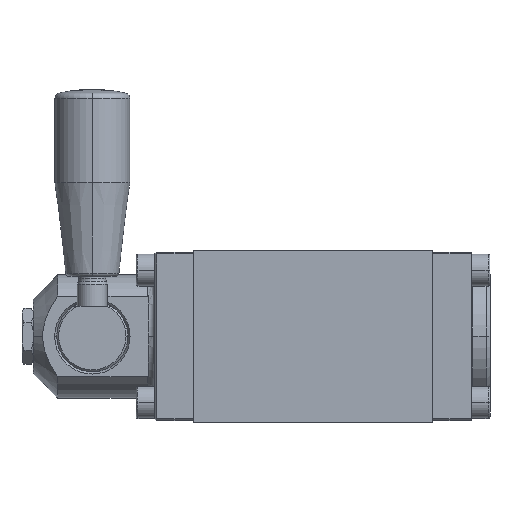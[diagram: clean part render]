
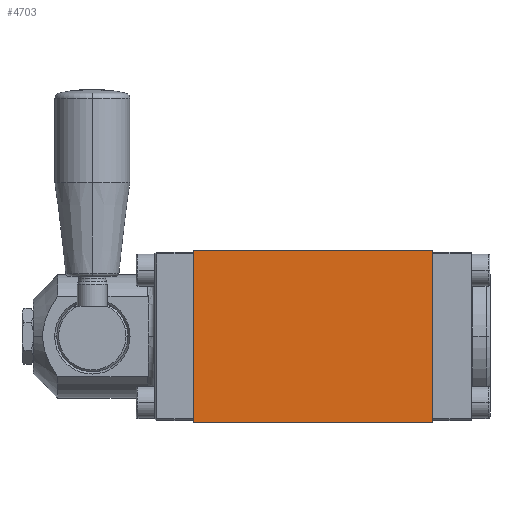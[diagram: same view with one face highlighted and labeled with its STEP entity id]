
A CAD part, top view. The second image highlights one B-rep face of the part: STEP entity #4703.
In plain terms, the highlighted planar face has unit normal (0, 0, 1).
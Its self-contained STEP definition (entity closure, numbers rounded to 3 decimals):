
#1309 = CARTESIAN_POINT ( 'NONE',  ( 0., 23., 23. ) ) ;
#2290 = ORIENTED_EDGE ( 'NONE', *, *, #8687, .F. ) ;
#2544 = CARTESIAN_POINT ( 'NONE',  ( 64., 23., 23. ) ) ;
#4703 = ADVANCED_FACE ( 'NONE', ( #11051 ), #15122, .F. ) ;
#4865 = DIRECTION ( 'NONE',  ( 0., -1., 0. ) ) ;
#6271 = EDGE_LOOP ( 'NONE', ( #19315, #2290, #6626, #15450 ) ) ;
#6626 = ORIENTED_EDGE ( 'NONE', *, *, #31065, .F. ) ;
#7003 = EDGE_CURVE ( 'NONE', #25188, #10686, #15386, .T. ) ;
#8569 = CARTESIAN_POINT ( 'NONE',  ( 0., -23., 23. ) ) ;
#8687 = EDGE_CURVE ( 'NONE', #24861, #10686, #16392, .T. ) ;
#10686 = VERTEX_POINT ( 'NONE', #8569 ) ;
#11051 = FACE_OUTER_BOUND ( 'NONE', #6271, .T. ) ;
#14531 = VECTOR ( 'NONE', #21800, 1000. ) ;
#15122 = PLANE ( 'NONE',  #19423 ) ;
#15362 = DIRECTION ( 'NONE',  ( 0., 0., -1. ) ) ;
#15386 = LINE ( 'NONE', #27416, #14531 ) ;
#15450 = ORIENTED_EDGE ( 'NONE', *, *, #21195, .T. ) ;
#15896 = DIRECTION ( 'NONE',  ( -1., 0., 0. ) ) ;
#16392 = LINE ( 'NONE', #22817, #32336 ) ;
#17897 = LINE ( 'NONE', #26566, #23791 ) ;
#19315 = ORIENTED_EDGE ( 'NONE', *, *, #7003, .T. ) ;
#19423 = AXIS2_PLACEMENT_3D ( 'NONE', #31689, #15362, #26152 ) ;
#20372 = DIRECTION ( 'NONE',  ( -1., 0., 0. ) ) ;
#21071 = LINE ( 'NONE', #26904, #26523 ) ;
#21195 = EDGE_CURVE ( 'NONE', #22750, #25188, #17897, .T. ) ;
#21800 = DIRECTION ( 'NONE',  ( 0., -1., 0. ) ) ;
#22750 = VERTEX_POINT ( 'NONE', #2544 ) ;
#22817 = CARTESIAN_POINT ( 'NONE',  ( 64., -23., 23. ) ) ;
#23791 = VECTOR ( 'NONE', #15896, 1000. ) ;
#24861 = VERTEX_POINT ( 'NONE', #31853 ) ;
#25188 = VERTEX_POINT ( 'NONE', #1309 ) ;
#26152 = DIRECTION ( 'NONE',  ( -1., 0., 0. ) ) ;
#26523 = VECTOR ( 'NONE', #4865, 1000. ) ;
#26566 = CARTESIAN_POINT ( 'NONE',  ( 64., 23., 23. ) ) ;
#26904 = CARTESIAN_POINT ( 'NONE',  ( 64., -23., 23. ) ) ;
#27416 = CARTESIAN_POINT ( 'NONE',  ( 0., -23., 23. ) ) ;
#31065 = EDGE_CURVE ( 'NONE', #22750, #24861, #21071, .T. ) ;
#31689 = CARTESIAN_POINT ( 'NONE',  ( 64., -23., 23. ) ) ;
#31853 = CARTESIAN_POINT ( 'NONE',  ( 64., -23., 23. ) ) ;
#32336 = VECTOR ( 'NONE', #20372, 1000. ) ;
